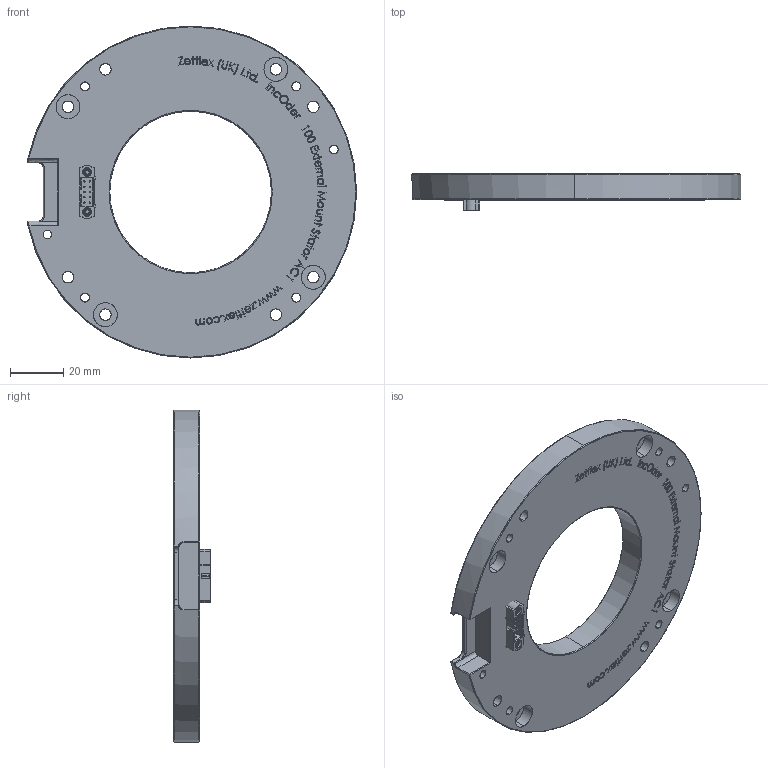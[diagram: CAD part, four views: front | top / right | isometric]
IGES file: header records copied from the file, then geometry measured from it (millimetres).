
Start section: SolidWorks IGES file using analytic representation for surfaces
Global section: file name: C:\Zettlex Data\Mechanical Drawings\1011\100 External Mount Stator AC1 Rev 1-0.IGS; native system: SolidWorks 2015; preprocessor: SolidWorks 2015; author: Nigel; date: 150903.180637; units: millimetre
Bounding box: 123.98 x 13.8 x 125 mm (x, y, z)
Surface area: 27185.2 mm2 (no closed solid volume)
Topology: 0 solids, 0 shells, 1349 faces, 14908 edges, 14880 vertices
Faces by surface type: bspline 1066, revolution 283
